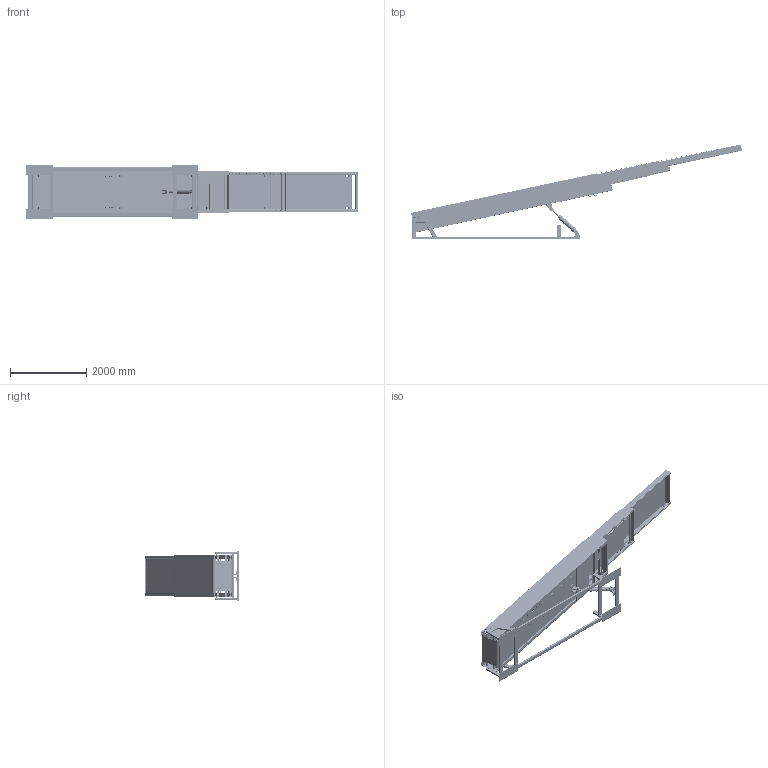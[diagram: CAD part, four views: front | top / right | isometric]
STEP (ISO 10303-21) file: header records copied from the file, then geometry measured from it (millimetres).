
FILE_DESCRIPTION(/* description */ (''),/* implementation_level */ '2;1');
FILE_NAME(/* name */ 'beltconveyor_a125_w800_l8800.stp',/* time_stamp */ '2025-01-12T21:35:58+08:00',/* author */ (''),/* organization */ (''),/* preprocessor_version */ 'ST-DEVELOPER v16.7',/* originating_system */ 'SIEMENS PLM Software NX 12.0',/* authorisation */ '');
FILE_SCHEMA (('AUTOMOTIVE_DESIGN { 1 0 10303 214 3 1 1 1 }'));
Products named in the file (53): 滚筒轴二; 滚筒轴三; GB／T 276-2013[深沟球轴承620
7-2RS]; 滚筒轴一; 滚筒体一; 改向链轮10A22Z; 改向链轮座; GB／T 276-2013[深沟球轴承620
5-2RS]; 导轮A轴; 导轮A; GB／T 276-2013[深沟球轴承620
4-2RS]; 输送电机座; 机身三; 托轮轴B; 导轮A座; 25_MA_Nut1HIHI; 机身二; 25MA50_RodHIHI; 25_MA_NutHIHI; 伸缩减速机座; F-MA32SDB (32).sldp安装座_HI; 输送减速电机; 支撑架_默认_按加工_; 伸缩驱动链轮10A30Z; 链条; 零件3^三节伸缩皮带机; 伸缩驱动轴; 机身一; 托轮轴A; 25MA50_BodyHIHI; 驱动辊; 零件1^三节伸缩皮带机; 链条2; 导轮座B; 伸缩电机链轮(12A15Z); 调节螺杆; 托轮; 孔; 皮带1-3; 推拉减速电机 ...
Assembly tree (113 placements, depth 3):
  beltconveyor_a125_w800_l8800
    GB／T 5783-2000[六角头螺栓M
12×140]  x4
    GB／T 7810-1995[带立式座轴承U
ELP208]  x6
    GB／T 6170-2000[六角螺母M12]  x6
    导轮A组件  x16
      GB／T 276-2013[深沟球轴承620
4-2RS]
      导轮A
      导轮A轴
    链条3
    镜向导轮座B  x6
    改向链轮组  x2
      GB／T 276-2013[深沟球轴承620
5-2RS]
      改向链轮座
      改向链轮10A22Z
    链条4
    滚筒一组件  x2
      滚筒体一
      滚筒轴一
      GB／T 276-2013[深沟球轴承620
7-2RS]
    输送链轮12A17Z
    推拉减速电机
    皮带1-3
    孔
    托轮  x4
    调节螺杆  x4
    伸缩电机链轮(12A15Z)  x3
    滚筒三组件  x2
      滚筒体一
      GB／T 276-2013[深沟球轴承620
7-2RS]
      滚筒轴三
    导轮座B  x6
    链条2
    零件1^三节伸缩皮带机
    滚筒二组件  x2
      滚筒体一
      滚筒轴二
      GB／T 276-2013[深沟球轴承620
7-2RS]
    驱动辊
    25MA50_BodyHIHI
    托轮轴A
    机身一
    伸缩驱动轴
    零件3^三节伸缩皮带机
    链条
    伸缩驱动链轮10A30Z  x2
    支撑架_默认_按加工_
    输送减速电机
    F-MA32SDB (32).sldp安装座_HI  x2
    伸缩减速机座
    25_MA_NutHIHI
    25MA50_RodHIHI
    机身二
    25_MA_Nut1HIHI
    导轮A座  x2
    托轮轴B
    机身三
    输送电机座
Bounding box: 8711.73 x 2487.75 x 1420 mm (x, y, z)
Volume: 282712601 mm3; surface area: 128516439.3 mm2
Topology: 1593 solids, 1605 shells, 28122 faces, 66097 edges, 41740 vertices
Faces by surface type: cylinder 14495, plane 7085, cone 2690, sphere 2012, torus 1317, extrusion 492, bspline 31
Entity records: 600942 total; most frequent: CARTESIAN_POINT 115537, DIRECTION 107924, ORIENTED_EDGE 92060, EDGE_CURVE 46030, AXIS2_PLACEMENT_3D 44918, VERTEX_POINT 29849, CIRCLE 25366, EDGE_LOOP 24511
